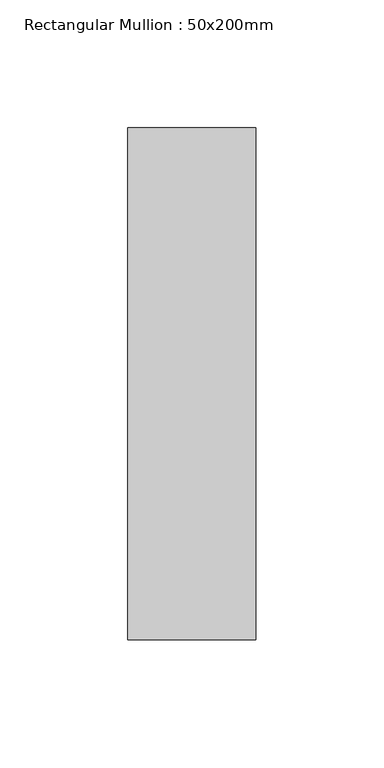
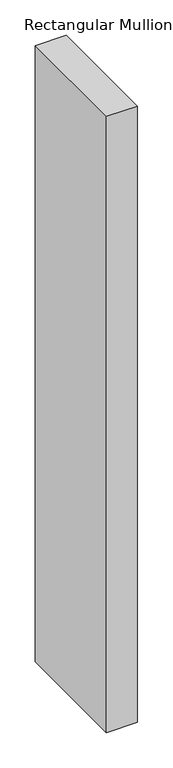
"""IFC4 building model written with IfcOpenShell, lengths in millimetres: member geometry, Rectangular Mullion : 50x200mm."""

from ifc_helpers import new_model, si_unit, frame, origin, place, context, project, spatial, polyline, outline, extrude, source, transform, mapped, element, save


def rectangular_mullion_50x200mm_6bfbba26(model_context):
    return source(origin(), model_context, "Body", "SweptSolid", [
        extrude(outline(polyline([(0.0, 100.0), (0.0, -100.0), (-50.0, -100.0), (-50.0, 100.0), (0.0, 100.0)])), frame((0.0, 0.0, -1060.0), z_axis=(0.0, 0.0, 1.0), x_axis=(1.0, 0.0, 0.0)), (0.0, 0.0, 1.0), 1060.0),
    ])


if __name__ == "__main__":
    model = new_model("IFC4")
    model_context = context("Model", 3, world=origin())
    ifc_project = project(units=[si_unit("LENGTHUNIT", "METRE", prefix="MILLI")], contexts=[model_context])
    site = spatial("IfcSite", under=ifc_project)
    building = spatial("IfcBuilding", under=site)
    placement = place(None, origin())
    rectangular_mullion_50x200mm_shape = rectangular_mullion_50x200mm_6bfbba26(model_context)
    element("IfcMember", 1, ObjectType="Rectangular Mullion : 50x200mm", at=placement, inside=building, context=model_context, shape_type="MappedRepresentation", body=[
        mapped(rectangular_mullion_50x200mm_shape, transform((0.0, 0.0, 0.0), x_axis=(1.0, 0.0, 0.0), y_axis=(0.0, 1.0, 0.0), z_axis=(0.0, 0.0, 1.0))),
    ])
    save(model, "model.ifc")
